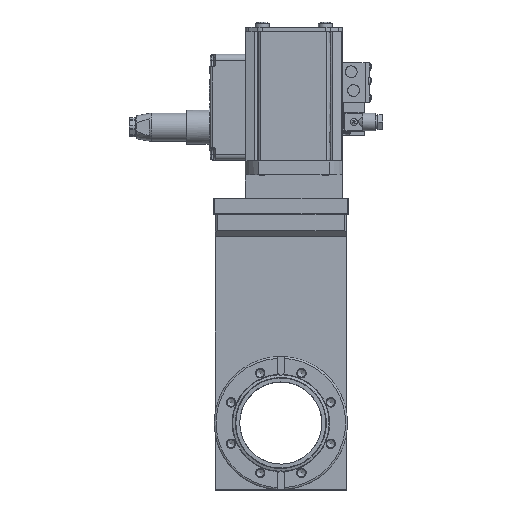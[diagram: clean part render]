
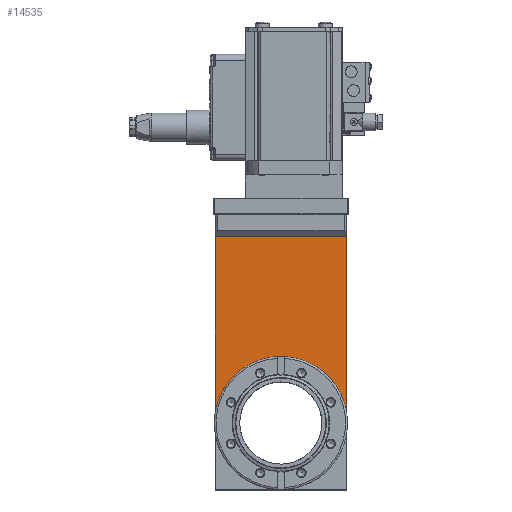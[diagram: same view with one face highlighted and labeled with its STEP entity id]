
A CAD part, top view. The second image highlights one B-rep face of the part: STEP entity #14535.
In plain terms, the highlighted free-form (B-spline) face has degree [1, 1] with [2, 2] control points.
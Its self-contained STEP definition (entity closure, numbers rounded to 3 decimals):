
#7450=CARTESIAN_POINT('V259',(-56.,-9.196,
   26.975));
#7451=VERTEX_POINT('V259',#7450);
#11409=CARTESIAN_POINT('V262',(56.,-9.196,
   26.975));
#11410=VERTEX_POINT('V262',#11409);
#14461=CARTESIAN_POINT('V266',(0.,-56.75,
   26.975));
#14462=VERTEX_POINT('V266',#14461);
#14468=CARTESIAN_POINT('E416',(0.,-56.75,
   26.975));
#14469=CARTESIAN_POINT('E416',(-48.191,
   -56.75,26.975));
#14470=CARTESIAN_POINT('E416',(-56.0,-9.196,
   26.975));
#14478=(BOUNDED_CURVE()B_SPLINE_CURVE(2,(#14468,#14469,#14470),
   .CIRCULAR_ARC.,.F.,.U.)B_SPLINE_CURVE_WITH_KNOTS((3,3),(0.0,
   0.219),.UNSPECIFIED.)CURVE()
   GEOMETRIC_REPRESENTATION_ITEM()RATIONAL_B_SPLINE_CURVE((1.0,
   0.671,0.775))REPRESENTATION_ITEM('E416')
   );
#14479=EDGE_CURVE('E416',#14462,#7451,#14478,.T.);
#14484=CARTESIAN_POINT('E412',(56.,-9.196,
   26.975));
#14485=CARTESIAN_POINT('E412',(48.191,
   -56.75,26.975));
#14486=CARTESIAN_POINT('E412',(0.,-56.75,
   26.975));
#14494=(BOUNDED_CURVE()B_SPLINE_CURVE(2,(#14484,#14485,#14486),
   .CIRCULAR_ARC.,.F.,.U.)B_SPLINE_CURVE_WITH_KNOTS((3,3),(
   0.781,1.0),.UNSPECIFIED.)CURVE()
   GEOMETRIC_REPRESENTATION_ITEM()RATIONAL_B_SPLINE_CURVE((
   0.775,0.671,1.0))REPRESENTATION_ITEM(
   'E412'));
#14495=EDGE_CURVE('E412',#11410,#14462,#14494,.T.);
#14507=CARTESIAN_POINT('F165',(58.8,
   -160.1,26.975));
#14508=CARTESIAN_POINT('F165',(58.8,62.954,
   26.975));
#14509=CARTESIAN_POINT('F165',(-58.8,
   -160.1,26.975));
#14510=CARTESIAN_POINT('F165',(-58.8,
   62.954,26.975));
#14511=B_SPLINE_SURFACE_WITH_KNOTS('F165',1,1,((#14507,#14509),(
   #14508,#14510)),.PLANE_SURF.,.F.,.F.,.U.,(2,2),(2,2),(
   0.212,2.108),(0.0,1.0),.UNSPECIFIED.);
#14512=ORIENTED_EDGE('E412',*,*,#14495,.F.);
#14513=CARTESIAN_POINT('V81',(56.,
   -159.1,26.975));
#14514=VERTEX_POINT('V81',#14513);
#14515=CARTESIAN_POINT('E400',(56.,-9.196,
   26.975));
#14516=CARTESIAN_POINT('E400',(56.,
   -159.1,26.975));
#14517=B_SPLINE_CURVE_WITH_KNOTS('E400',1,(#14515,#14516),
   .POLYLINE_FORM.,.F.,.U.,(2,2),(0.281,
   0.915),.UNSPECIFIED.);
#14518=EDGE_CURVE('E400',#11410,#14514,#14517,.T.);
#14519=ORIENTED_EDGE('E400',*,*,#14518,.T.);
#14520=CARTESIAN_POINT('V82',(-56.,
   -159.1,26.975));
#14521=VERTEX_POINT('V82',#14520);
#14522=CARTESIAN_POINT('E113',(-56.,
   -159.1,26.975));
#14523=CARTESIAN_POINT('E113',(56.,
   -159.1,26.975));
#14524=QUASI_UNIFORM_CURVE('E113',1,(#14522,#14523),.POLYLINE_FORM.,
   .F.,.U.);
#14525=EDGE_CURVE('E113',#14521,#14514,#14524,.T.);
#14526=ORIENTED_EDGE('E113',*,*,#14525,.F.);
#14527=CARTESIAN_POINT('E395',(-56.,
   -9.196,26.975));
#14528=CARTESIAN_POINT('E395',(-56.,
   -159.1,26.975));
#14529=B_SPLINE_CURVE_WITH_KNOTS('E395',1,(#14527,#14528),
   .POLYLINE_FORM.,.F.,.U.,(2,2),(0.281,
   0.915),.UNSPECIFIED.);
#14530=EDGE_CURVE('E395',#7451,#14521,#14529,.T.);
#14531=ORIENTED_EDGE('E395',*,*,#14530,.F.);
#14532=ORIENTED_EDGE('E416',*,*,#14479,.F.);
#14533=EDGE_LOOP('F165',(#14512,#14519,#14526,#14531,#14532));
#14534=FACE_OUTER_BOUND('F165',#14533,.F.);
#14535=ADVANCED_FACE('F165',(#14534),#14511,.T.);
